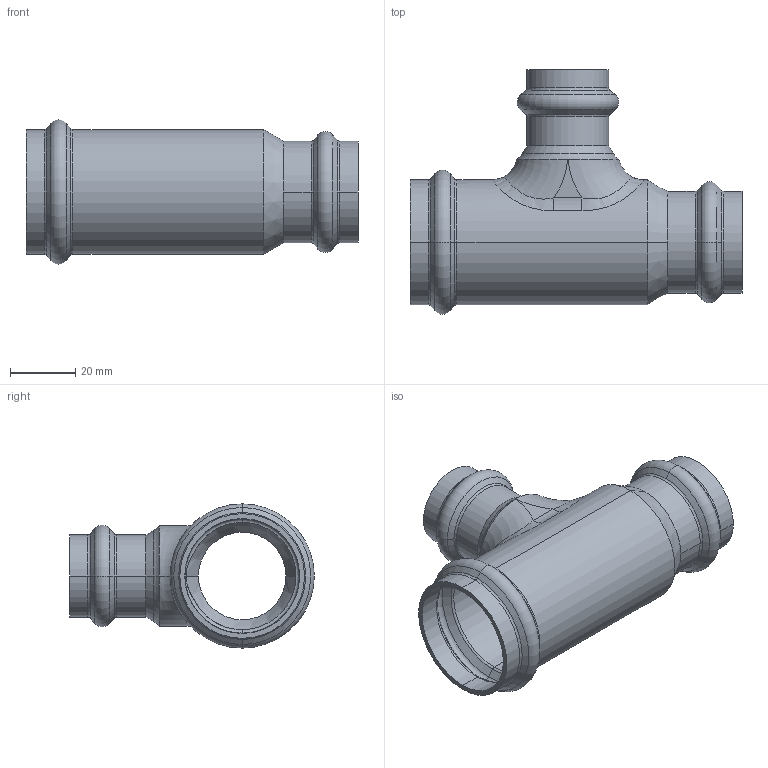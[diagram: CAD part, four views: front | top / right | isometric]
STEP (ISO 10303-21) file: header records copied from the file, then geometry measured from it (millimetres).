
FILE_DESCRIPTION (( 'STEP AP203' ), '1' );
FILE_NAME ('SP5130 Ø35-22-28.STEP', '2017-04-24T13:20:10', ( '' ), ( '' ), 'SwSTEP 2.0', 'SolidWorks 2016', '' );
FILE_SCHEMA (( 'CONFIG_CONTROL_DESIGN' ));
Length unit declared in the file: millimetre
Products named in the file (1): SP5130 Ø35-22-28
Bounding box: 102 x 75.15 x 44.3 mm (x, y, z)
Volume: 28535.3 mm3; surface area: 29498.9 mm2
Topology: 1 solids, 1 shells, 129 faces, 286 edges, 156 vertices
Faces by surface type: torus 46, cone 36, cylinder 35, bspline 6, plane 6
Entity records: 5169 total; most frequent: CARTESIAN_POINT 2220, DIRECTION 686, ORIENTED_EDGE 564, AXIS2_PLACEMENT_3D 308, EDGE_CURVE 282, CIRCLE 184, VERTEX_POINT 156, EDGE_LOOP 134
